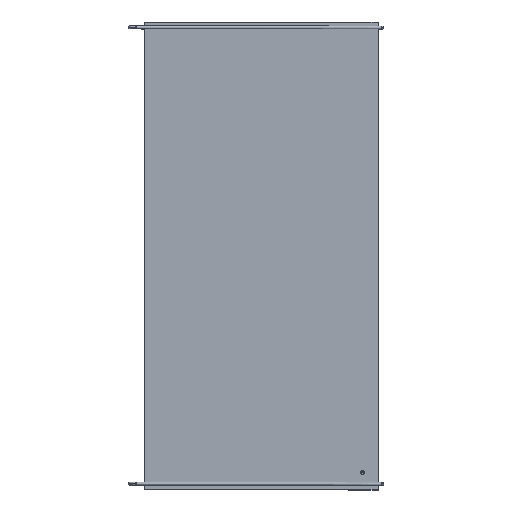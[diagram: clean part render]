
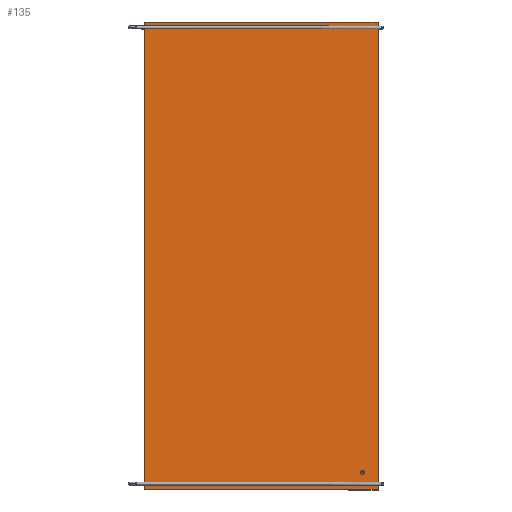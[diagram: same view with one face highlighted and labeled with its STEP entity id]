
A CAD part, top view. The second image highlights one B-rep face of the part: STEP entity #135.
In plain terms, the highlighted planar face has unit normal (0, 0, 1).
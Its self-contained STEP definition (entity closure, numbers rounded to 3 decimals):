
#135=ADVANCED_FACE('',(#563),#7029,.T.);
#563=FACE_OUTER_BOUND('',#995,.T.);
#995=EDGE_LOOP('',(#1464,#1465,#1466,#1467));
#1464=ORIENTED_EDGE('',*,*,#3843,.F.);
#1465=ORIENTED_EDGE('',*,*,#3840,.F.);
#1466=ORIENTED_EDGE('',*,*,#3838,.F.);
#1467=ORIENTED_EDGE('',*,*,#3834,.F.);
#3834=EDGE_CURVE('',#6238,#6239,#5030,.T.);
#3838=EDGE_CURVE('',#6239,#6240,#5034,.T.);
#3840=EDGE_CURVE('',#6240,#6243,#5036,.T.);
#3843=EDGE_CURVE('',#6243,#6238,#5039,.T.);
#5030=B_SPLINE_CURVE_WITH_KNOTS('',1,(#8572,#8573),.UNSPECIFIED.,.F.,.F.,
(2,2),(0.,400.),.UNSPECIFIED.);
#5034=B_SPLINE_CURVE_WITH_KNOTS('',1,(#8580,#8581),.UNSPECIFIED.,.F.,.F.,
(2,2),(0.,800.),.UNSPECIFIED.);
#5036=B_SPLINE_CURVE_WITH_KNOTS('',1,(#8584,#8585),.UNSPECIFIED.,.F.,.F.,
(2,2),(0.,400.),.UNSPECIFIED.);
#5039=B_SPLINE_CURVE_WITH_KNOTS('',1,(#8590,#8591),.UNSPECIFIED.,.F.,.F.,
(2,2),(0.,800.),.UNSPECIFIED.);
#6238=VERTEX_POINT('',#8506);
#6239=VERTEX_POINT('',#8507);
#6240=VERTEX_POINT('',#8508);
#6243=VERTEX_POINT('',#8511);
#7029=PLANE('',#7743);
#7743=AXIS2_PLACEMENT_3D('',#8491,#8113,$);
#8113=DIRECTION('',(0.,0.,1.));
#8491=CARTESIAN_POINT('',(4848.889,1893.729,16.));
#8506=CARTESIAN_POINT('',(4768.769,1853.609,16.));
#8507=CARTESIAN_POINT('',(4768.769,1453.609,16.));
#8508=CARTESIAN_POINT('',(3968.769,1453.609,16.));
#8511=CARTESIAN_POINT('',(3968.769,1853.609,16.));
#8572=CARTESIAN_POINT('',(4768.769,1853.609,16.));
#8573=CARTESIAN_POINT('',(4768.769,1453.609,16.));
#8580=CARTESIAN_POINT('',(4768.769,1453.609,16.));
#8581=CARTESIAN_POINT('',(3968.769,1453.609,16.));
#8584=CARTESIAN_POINT('',(3968.769,1453.609,16.));
#8585=CARTESIAN_POINT('',(3968.769,1853.609,16.));
#8590=CARTESIAN_POINT('',(3968.769,1853.609,16.));
#8591=CARTESIAN_POINT('',(4768.769,1853.609,16.));
